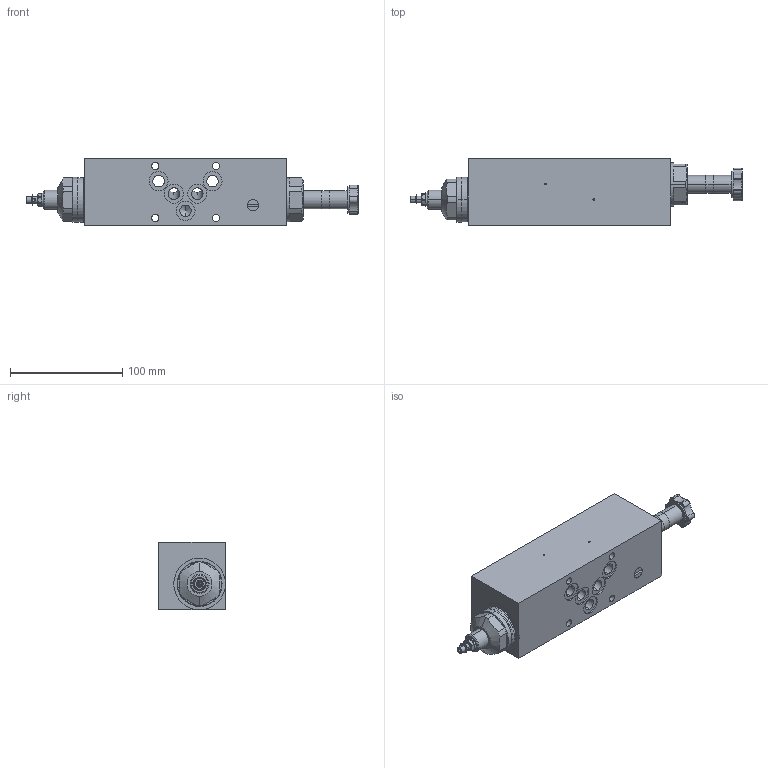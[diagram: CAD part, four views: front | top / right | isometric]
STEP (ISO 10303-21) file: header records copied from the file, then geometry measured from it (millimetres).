
FILE_DESCRIPTION (( 'STEP AP214' ), '1' );
FILE_NAME ('VQSSA10-P.STEP', '2017-04-06T10:55:19', ( '' ), ( '' ), 'SwSTEP 2.0', 'SolidWorks 2016', '' );
FILE_SCHEMA (( 'AUTOMOTIVE_DESIGN' ));
Length unit declared in the file: millimetre
Products named in the file (1): VQSSA10-P
Bounding box: 295.4 x 59.5 x 60 mm (x, y, z)
Volume: 667562.4 mm3; surface area: 77380 mm2
Topology: 5 solids, 5 shells, 372 faces, 884 edges, 544 vertices
Faces by surface type: cylinder 163, plane 106, cone 74, torus 29
Entity records: 15300 total; most frequent: CARTESIAN_POINT 2449, DIRECTION 1978, ORIENTED_EDGE 1744, EDGE_CURVE 872, AXIS2_PLACEMENT_3D 825, VERTEX_POINT 544, CIRCLE 452, EDGE_LOOP 426
